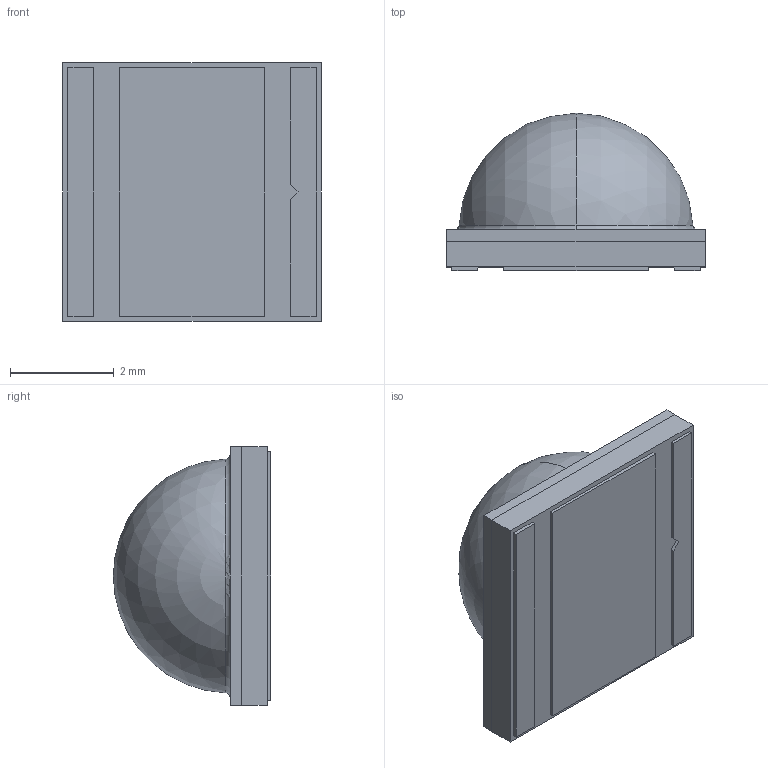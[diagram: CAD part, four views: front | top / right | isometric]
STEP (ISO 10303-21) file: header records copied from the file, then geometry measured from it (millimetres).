
FILE_DESCRIPTION (( 'STEP AP203' ), '1' );
FILE_NAME ('XK&XL2&XM2.STEP', '2024-01-18T09:03:10', ( '' ), ( '' ), 'SwSTEP 2.0', 'SolidWorks 2016', '' );
FILE_SCHEMA (( 'CONFIG_CONTROL_DESIGN' ));
Length unit declared in the file: millimetre
Products named in the file (1): XK&XL2&XM2
Bounding box: 5 x 3.04 x 5 mm (x, y, z)
Volume: 43.3 mm3; surface area: 132.1 mm2
Topology: 2 solids, 2 shells, 34 faces, 77 edges, 51 vertices
Faces by surface type: plane 30, torus 2, sphere 2
Entity records: 1016 total; most frequent: CARTESIAN_POINT 163, DIRECTION 155, ORIENTED_EDGE 154, EDGE_CURVE 77, VECTOR 69, LINE 69, VERTEX_POINT 51, AXIS2_PLACEMENT_3D 43
